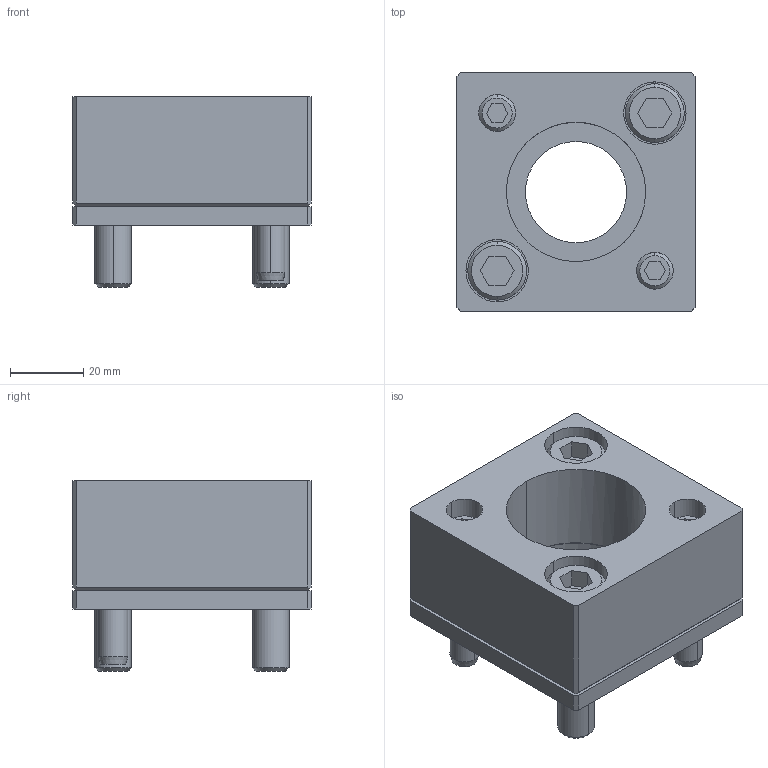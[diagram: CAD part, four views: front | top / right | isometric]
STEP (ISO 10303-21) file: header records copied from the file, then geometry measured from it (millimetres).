
FILE_DESCRIPTION(/* description */ (''),/* implementation_level */ '2;1');
FILE_NAME(/* name */ '3d_sr-fd38_05474_r00.stp',/* time_stamp */ '2011-01-10T14:09:58+09:00',/* author */ ('MISUMI'),/* organization */ (''),/* preprocessor_version */ 'ST-DEVELOPER v11',/* originating_system */ 'UGS - NX 5.0',/* authorisation */ '');
FILE_SCHEMA (('CONFIG_CONTROL_DESIGN'));
Length unit declared in the file: millimetre
Products named in the file (1): 3d_sr-fd38_05474_r00
Bounding box: 65 x 65 x 52 mm (x, y, z)
Volume: 108534.8 mm3; surface area: 37407.3 mm2
Topology: 8 solids, 8 shells, 159 faces, 365 edges, 236 vertices
Faces by surface type: plane 78, cylinder 55, cone 26
Entity records: 4643 total; most frequent: DIRECTION 815, CARTESIAN_POINT 806, ORIENTED_EDGE 730, EDGE_CURVE 365, AXIS2_PLACEMENT_3D 297, VERTEX_POINT 236, LINE 221, VECTOR 221
